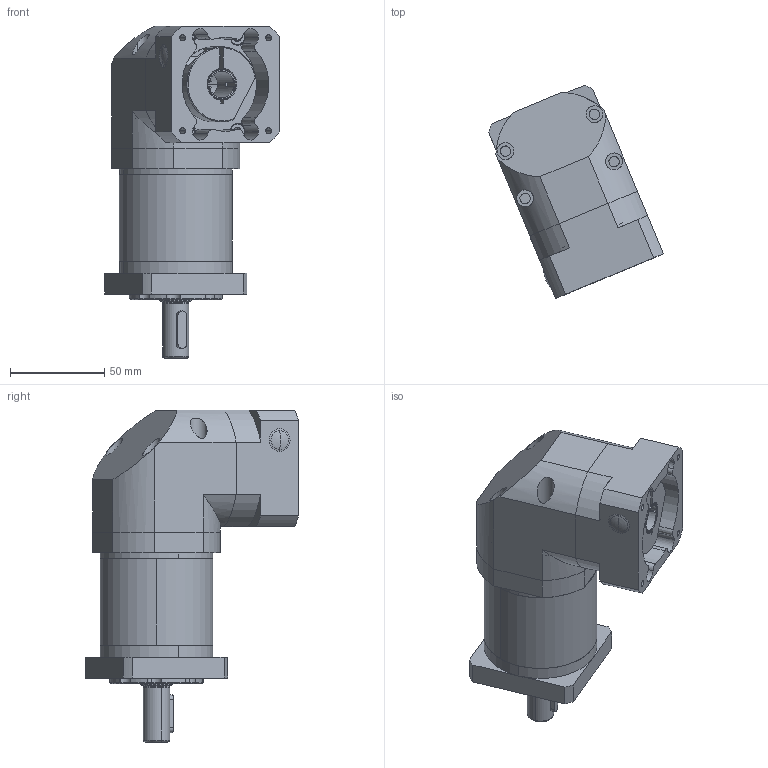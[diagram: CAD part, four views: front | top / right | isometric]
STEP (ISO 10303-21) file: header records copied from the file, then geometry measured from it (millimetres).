
FILE_DESCRIPTION (( 'STEP AP203' ), '1' );
FILE_NAME ('LSFR60-(L2)-S2-P2-5070M4.STEP', '2024-11-14T09:36:21', ( '微软用户' ), ( '微软中国' ), 'SwSTEP 2.0', 'SolidWorks 2022', '' );
FILE_SCHEMA (( 'CONFIG_CONTROL_DESIGN' ));
Length unit declared in the file: millimetre
Products named in the file (1): LSFR60-(L2)-S2-P2-5070M4
Bounding box: 92.91 x 113.46 x 176.5 mm (x, y, z)
Volume: 525324.7 mm3; surface area: 93876.8 mm2
Topology: 12 solids, 12 shells, 627 faces, 1452 edges, 860 vertices
Faces by surface type: plane 254, cylinder 181, cone 152, torus 24, bspline 16
Entity records: 19511 total; most frequent: CARTESIAN_POINT 5365, DIRECTION 3058, ORIENTED_EDGE 2828, EDGE_CURVE 1414, AXIS2_PLACEMENT_3D 1233, VERTEX_POINT 860, EDGE_LOOP 700, ADVANCED_FACE 627
